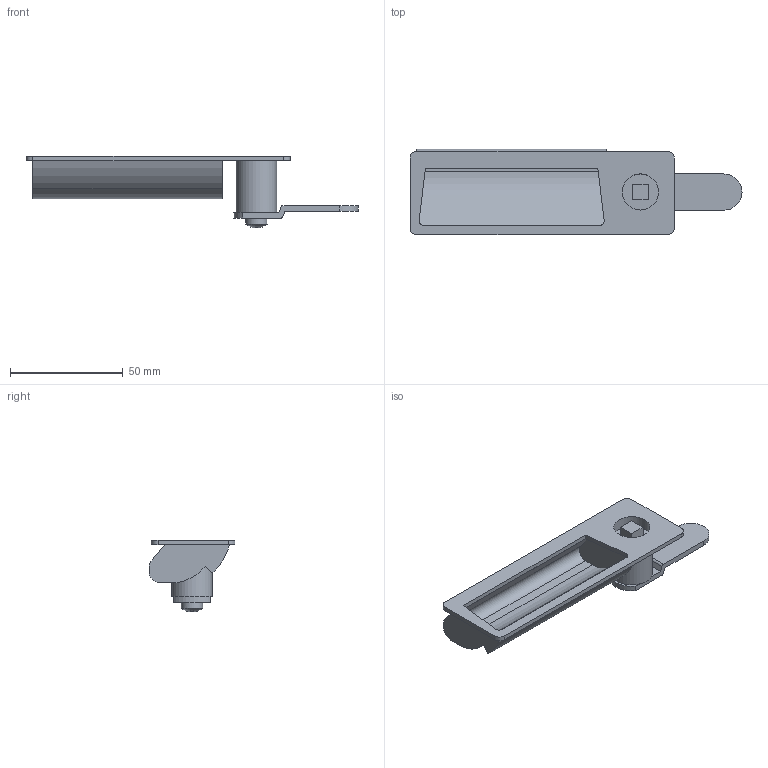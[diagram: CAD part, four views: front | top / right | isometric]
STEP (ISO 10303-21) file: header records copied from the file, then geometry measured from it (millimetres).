
FILE_DESCRIPTION( ( 'STEP AP203' ), '1' );
FILE_NAME( 'C:/Temp/Ganter_Step_05_03_2020/data/3_3/gn731_5/gn731_5_2/Latche with gripping tray GN 731.5-VK-3-45-2-SG (0-20).stp', '2020-03-12T11:49:35', ( 'License CC BY-ND 4.0' ), ( 'CADENAS' ), ' ', 'PARTsolutions', ' ' );
FILE_SCHEMA( ( 'CONFIG_CONTROL_DESIGN' ) );
Length unit declared in the file: millimetre
Products named in the file (3): Latche with gripping tray GN 731.5-VK-3-45-2-SG (0-20); _Latche with gripping tray GN 731.5-VK-3-45-2-SG (0)_1; _Latche with gripping tray GN 731.5-VK-3-45-2-SG (0-20)_2
Assembly tree (2 placements, depth 2):
  Latche with gripping tray GN 731.5-VK-3-45-2-SG (0-20)
    _Latche with gripping tray GN 731.5-VK-3-45-2-SG (0)_1
    _Latche with gripping tray GN 731.5-VK-3-45-2-SG (0-20)_2
Bounding box: 147 x 38 x 31.88 mm (x, y, z)
Volume: 24412.4 mm3; surface area: 20522.3 mm2
Topology: 2 solids, 2 shells, 91 faces, 233 edges, 152 vertices
Faces by surface type: plane 68, cylinder 22, sphere 1
Full cylindrical faces by diameter (mm): 9.5 x1, 16 x1, 18 x1
Entity records: 2817 total; most frequent: DIRECTION 479, CARTESIAN_POINT 469, ORIENTED_EDGE 452, EDGE_CURVE 226, LINE 161, VECTOR 161, AXIS2_PLACEMENT_3D 159, VERTEX_POINT 149
